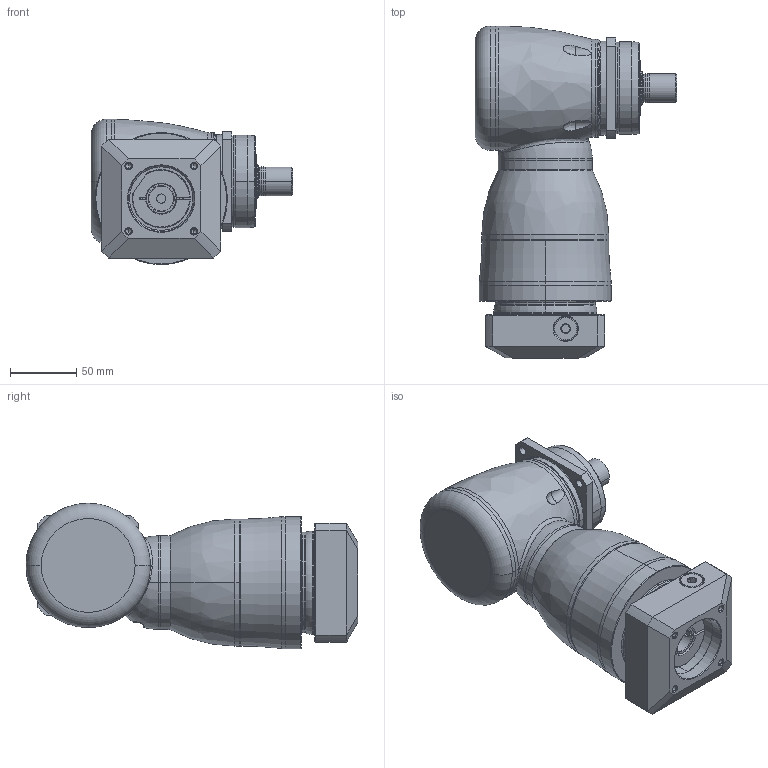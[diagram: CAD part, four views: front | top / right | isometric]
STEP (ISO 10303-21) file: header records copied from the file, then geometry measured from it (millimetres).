
FILE_DESCRIPTION((''),'2;1');
FILE_NAME('KF075_S3_2ST_19-P0409400101_ASM','2016-07-07T',('d01943'),(''),'PRO/ENGINEER BY PARAMETRIC TECHNOLOGY CORPORATION, 2008410','PRO/ENGINEER BY PARAMETRIC TECHNOLOGY CORPORATION, 2008410','');
FILE_SCHEMA(('CONFIG_CONTROL_DESIGN'));
Length unit declared in the file: millimetre
Products named in the file (11): P1008300002; P1804300001; P0915302001; P1315300001; P1007300001; P1317300301; P0409400101; P0503400006; P0912203001; 21711412017; KF075_S3_2ST_19-P0409400101_ASM
Assembly tree (10 placements, depth 2):
  KF075_S3_2ST_19-P0409400101_ASM
    P1008300002
    P1804300001
    P0915302001
    P1315300001
    P1007300001
    P1317300301
    P0409400101
    P0503400006
    P0912203001
    21711412017
Bounding box: 152.5 x 251 x 110 mm (x, y, z)
Volume: 1613298.9 mm3; surface area: 205712.3 mm2
Topology: 11 solids, 11 shells, 454 faces, 1031 edges, 608 vertices
Faces by surface type: cylinder 149, cone 114, plane 86, torus 68, bspline 35, sphere 2
Entity records: 19257 total; most frequent: CARTESIAN_POINT 8977, DIRECTION 2258, ORIENTED_EDGE 1998, EDGE_CURVE 999, AXIS2_PLACEMENT_3D 961, VERTEX_POINT 602, CIRCLE 521, EDGE_LOOP 513
